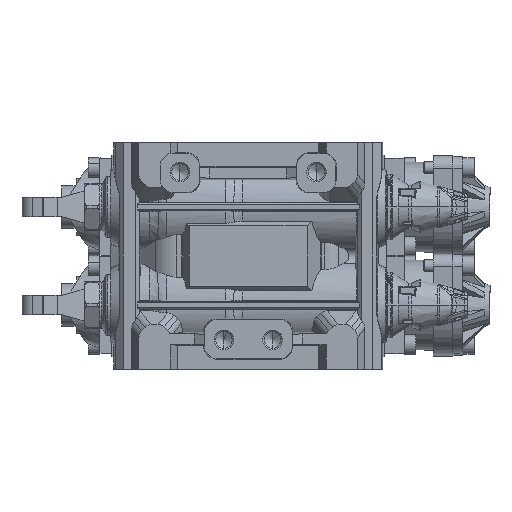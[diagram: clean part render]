
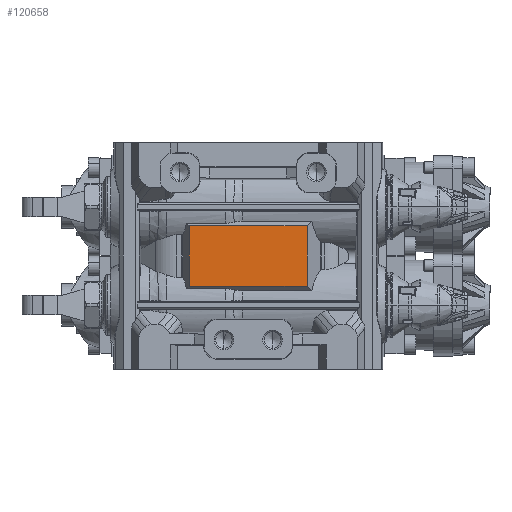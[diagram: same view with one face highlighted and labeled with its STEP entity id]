
A CAD part, front view. The second image highlights one B-rep face of the part: STEP entity #120658.
In plain terms, the highlighted planar face has unit normal (0, -1, 0).
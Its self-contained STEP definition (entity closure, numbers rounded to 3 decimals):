
#2988 = EDGE_CURVE ( 'NONE', #67521, #37908, #73149, .T. ) ;
#5018 = VECTOR ( 'NONE', #100065, 1000. ) ;
#5860 = VECTOR ( 'NONE', #139077, 1000. ) ;
#9610 = CARTESIAN_POINT ( 'NONE',  ( 30.251, -43., -15.414 ) ) ;
#17787 = DIRECTION ( 'NONE',  ( 1., 0., 0. ) ) ;
#20059 = CARTESIAN_POINT ( 'NONE',  ( 30.251, -43., 15.414 ) ) ;
#30297 = ORIENTED_EDGE ( 'NONE', *, *, #138384, .T. ) ;
#31315 = LINE ( 'NONE', #87813, #5018 ) ;
#37908 = VERTEX_POINT ( 'NONE', #59130 ) ;
#44964 = EDGE_CURVE ( 'NONE', #103193, #67521, #110749, .T. ) ;
#48454 = DIRECTION ( 'NONE',  ( -1., 0., 0. ) ) ;
#58694 = VECTOR ( 'NONE', #17787, 1000. ) ;
#59130 = CARTESIAN_POINT ( 'NONE',  ( -30.251, -43., 15.414 ) ) ;
#67521 = VERTEX_POINT ( 'NONE', #20059 ) ;
#73149 = LINE ( 'NONE', #115340, #99451 ) ;
#77353 = EDGE_CURVE ( 'NONE', #82734, #103193, #133732, .T. ) ;
#82734 = VERTEX_POINT ( 'NONE', #89499 ) ;
#84168 = CARTESIAN_POINT ( 'NONE',  ( -29.674, -43., -15.414 ) ) ;
#87813 = CARTESIAN_POINT ( 'NONE',  ( -30.251, -43., 14.837 ) ) ;
#89238 = ORIENTED_EDGE ( 'NONE', *, *, #44964, .T. ) ;
#89280 = ORIENTED_EDGE ( 'NONE', *, *, #77353, .T. ) ;
#89499 = CARTESIAN_POINT ( 'NONE',  ( -30.251, -43., -15.414 ) ) ;
#93333 = PLANE ( 'NONE',  #111827 ) ;
#93778 = CARTESIAN_POINT ( 'NONE',  ( 30.251, -43., 14.837 ) ) ;
#99451 = VECTOR ( 'NONE', #48454, 1000. ) ;
#100065 = DIRECTION ( 'NONE',  ( 0., 0., -1. ) ) ;
#103193 = VERTEX_POINT ( 'NONE', #9610 ) ;
#104082 = DIRECTION ( 'NONE',  ( 0., -1., 0. ) ) ;
#105044 = CARTESIAN_POINT ( 'NONE',  ( -29.674, -43., 14.837 ) ) ;
#109590 = EDGE_LOOP ( 'NONE', ( #30297, #89280, #89238, #138504 ) ) ;
#110749 = LINE ( 'NONE', #93778, #5860 ) ;
#111827 = AXIS2_PLACEMENT_3D ( 'NONE', #105044, #104082, #116223 ) ;
#115340 = CARTESIAN_POINT ( 'NONE',  ( -29.674, -43., 15.414 ) ) ;
#116223 = DIRECTION ( 'NONE',  ( 0., 0., -1. ) ) ;
#120658 = ADVANCED_FACE ( 'NONE', ( #121378 ), #93333, .T. ) ;
#121378 = FACE_OUTER_BOUND ( 'NONE', #109590, .T. ) ;
#133732 = LINE ( 'NONE', #84168, #58694 ) ;
#138384 = EDGE_CURVE ( 'NONE', #37908, #82734, #31315, .T. ) ;
#138504 = ORIENTED_EDGE ( 'NONE', *, *, #2988, .T. ) ;
#139077 = DIRECTION ( 'NONE',  ( 0., 0., 1. ) ) ;
